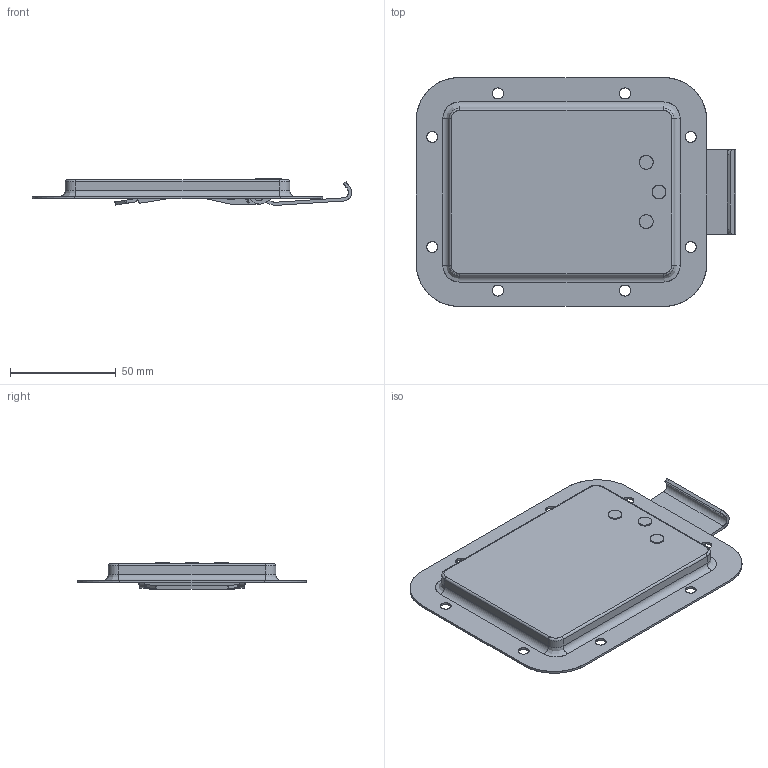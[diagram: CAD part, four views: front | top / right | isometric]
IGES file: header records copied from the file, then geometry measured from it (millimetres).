
Start section: SolidWorks IGES FILE using analytic representation for surfaces
Global section: file name: C:\Documents and Settings\lecoutey\Bureau\GE 1040\GE 1040.IGS; native system: SolidWorks 2004 by SolidWorks Corporation; preprocessor: Version 5.3; author: lecoutey; date: 050330.085337; units: millimetre
Bounding box: 150.7 x 108 x 12.67 mm (x, y, z)
Surface area: 51317.2 mm2 (no closed solid volume)
Topology: 0 solids, 0 shells, 331 faces, 5066 edges, 5066 vertices
Faces by surface type: bspline 195, revolution 136
